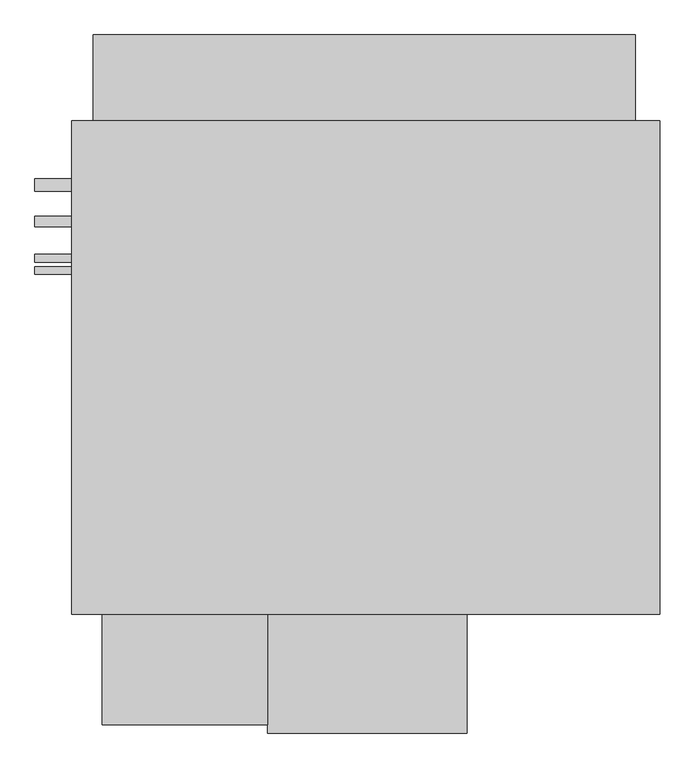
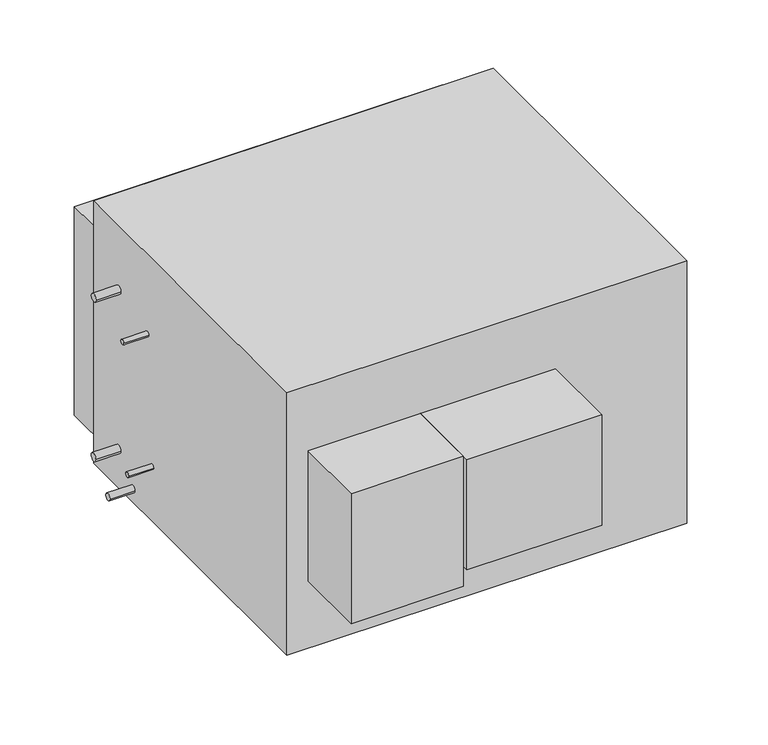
"""IFC4 building model written with IfcOpenShell, lengths in millimetres: proxy geometry, Horizontal_Direct_Drive_Blower_Coil_Unit_-_42DHA_-_CARRIER_-_4-Pipe_LH_2022 : Size 30 - 460v/60Hz/3Ph - 6/2 Coil."""

from ifc_helpers import new_model, si_unit, point, frame, frame_2d, origin, place, context, project, spatial, polyline, circle_curve, trimmed, segment, composite_curve, outline, extrude, source, transform, mapped, element, save


def mechanical_equipment_bab576e5(model_context):
    return source(origin(), model_context, "Body", "SweptSolid", [
        extrude(outline(composite_curve([segment(trimmed(circle_curve(frame_2d((358.775, -205.7657415)), 12.7), [point((371.475, -205.7657415))], [point((346.075, -205.7657415))], False, "CARTESIAN"), True, "CONTINUOUS"), segment(trimmed(circle_curve(frame_2d((358.775, -205.7657415)), 12.7), [point((346.075, -205.7657415))], [point((371.475, -205.7657415))], False, "CARTESIAN"), True, "CONTINUOUS")], self_intersect=False)), frame((-1143.0, 0.0, 0.0), z_axis=(1.0, 0.0, 0.0), x_axis=(0.0, 1.0, 0.0)), (0.0, 0.0, 1.0), 76.2),
        extrude(outline(composite_curve([segment(trimmed(circle_curve(frame_2d((359.642288, -720.1157415)), 12.7), [point((372.342288, -720.1157415))], [point((346.942288, -720.1157415))], False, "CARTESIAN"), True, "CONTINUOUS"), segment(trimmed(circle_curve(frame_2d((359.642288, -720.1157415)), 12.7), [point((346.942288, -720.1157415))], [point((372.342288, -720.1157415))], False, "CARTESIAN"), True, "CONTINUOUS")], self_intersect=False)), frame((-1143.0, 0.0, 0.0), z_axis=(1.0, 0.0, 0.0), x_axis=(0.0, 1.0, 0.0)), (0.0, 0.0, 1.0), 76.2),
        extrude(outline(composite_curve([segment(trimmed(circle_curve(frame_2d((283.442288, -802.6657415)), 11.1125), [point((294.554788, -802.6657415))], [point((272.329788, -802.6657415))], False, "CARTESIAN"), True, "CONTINUOUS"), segment(trimmed(circle_curve(frame_2d((283.442288, -802.6657415)), 11.1125), [point((272.329788, -802.6657415))], [point((294.554788, -802.6657415))], False, "CARTESIAN"), True, "CONTINUOUS")], self_intersect=False)), frame((-1143.0, 0.0, 0.0), z_axis=(1.0, 0.0, 0.0), x_axis=(0.0, 1.0, 0.0)), (0.0, 0.0, 1.0), 76.2),
        extrude(outline(composite_curve([segment(trimmed(circle_curve(frame_2d((207.242288, -256.5657415)), 7.9375), [point((215.179788, -256.5657415))], [point((199.304788, -256.5657415))], False, "CARTESIAN"), True, "CONTINUOUS"), segment(trimmed(circle_curve(frame_2d((207.242288, -256.5657415)), 7.9375), [point((199.304788, -256.5657415))], [point((215.179788, -256.5657415))], False, "CARTESIAN"), True, "CONTINUOUS")], self_intersect=False)), frame((-1143.0, 0.0, 0.0), z_axis=(1.0, 0.0, 0.0), x_axis=(0.0, 1.0, 0.0)), (0.0, 0.0, 1.0), 76.2),
        extrude(outline(composite_curve([segment(trimmed(circle_curve(frame_2d((181.842288, -669.5949971)), 7.9375), [point((189.779788, -669.5949971))], [point((173.904788, -669.5949971))], False, "CARTESIAN"), True, "CONTINUOUS"), segment(trimmed(circle_curve(frame_2d((181.842288, -669.5949971)), 7.9375), [point((173.904788, -669.5949971))], [point((189.779788, -669.5949971))], False, "CARTESIAN"), True, "CONTINUOUS")], self_intersect=False)), frame((-1143.0, 0.0, 0.0), z_axis=(1.0, 0.0, 0.0), x_axis=(0.0, 1.0, 0.0)), (0.0, 0.0, 1.0), 76.2),
        extrude(outline(polyline([(152.4, 492.125), (152.4, -530.225), (-1066.8, -530.225), (-1066.8, 492.125), (152.4, 492.125)])), frame((0.0, 0.0, -847.1157415), z_axis=(0.0, 0.0, 1.0), x_axis=(1.0, 0.0, 0.0)), (0.0, 0.0, 1.0), 847.1157415),
        extrude(outline(polyline([(-660.4, -758.825), (-1003.3, -758.825), (-1003.3, -530.225), (-660.4, -530.225), (-660.4, -758.825)])), frame((0.0, 0.0, -628.0407415), z_axis=(0.0, 0.0, 1.0), x_axis=(1.0, 0.0, 0.0)), (0.0, 0.0, 1.0), 419.1),
        extrude(outline(polyline([(-1022.35, 669.925), (101.6, 669.925), (101.6, 492.125), (-1022.35, 492.125), (-1022.35, 669.925)])), frame((0.0, 0.0, -815.3657415), z_axis=(0.0, 0.0, 1.0), x_axis=(1.0, 0.0, 0.0)), (0.0, 0.0, 1.0), 673.1),
        extrude(outline(polyline([(-247.65, -776.2875), (-660.4, -776.2875), (-660.4, -530.225), (-247.65, -530.225), (-247.65, -776.2875)])), frame((0.0, 0.0, -564.5407415), z_axis=(0.0, 0.0, 1.0), x_axis=(1.0, 0.0, 0.0)), (0.0, 0.0, 1.0), 355.6),
    ])


if __name__ == "__main__":
    model = new_model("IFC4")
    model_context = context("Model", 3, world=origin())
    ifc_project = project(units=[si_unit("LENGTHUNIT", "METRE", prefix="MILLI")], contexts=[model_context])
    site = spatial("IfcSite", under=ifc_project)
    building = spatial("IfcBuilding", under=site)
    placement = place(None, origin())
    mechanical_equipment_shape = mechanical_equipment_bab576e5(model_context)
    element("IfcBuildingElementProxy", 1, Name="Horizontal_Direct_Drive_Blower_Coil_Unit_-_42DHA_-_CARRIER_-_4-Pipe_LH_2022 : Size 30 - 460v/60Hz/3Ph - 6/2 Coil", ObjectType="Horizontal_Direct_Drive_Blower_Coil_Unit_-_42DHA_-_CARRIER_-_4-Pipe_LH_2022 : Size 30 - 460v/60Hz/3Ph - 6/2 Coil", at=placement, inside=building, context=model_context, shape_type="MappedRepresentation", body=[
        mapped(mechanical_equipment_shape, transform((0.0, 0.0, 0.0), x_axis=(1.0, 0.0, 0.0), y_axis=(0.0, 1.0, 0.0), z_axis=(0.0, 0.0, 1.0))),
    ])
    save(model, "model.ifc")
